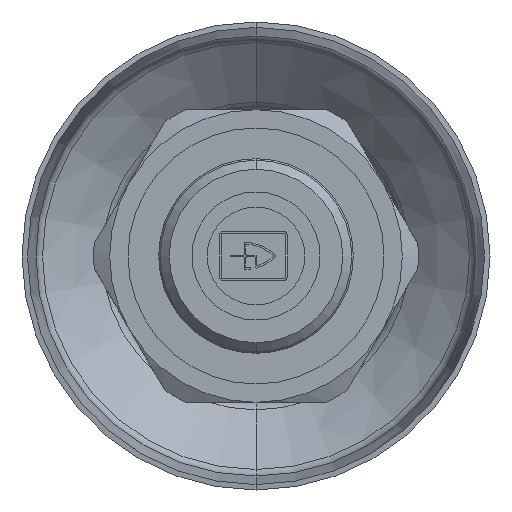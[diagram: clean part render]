
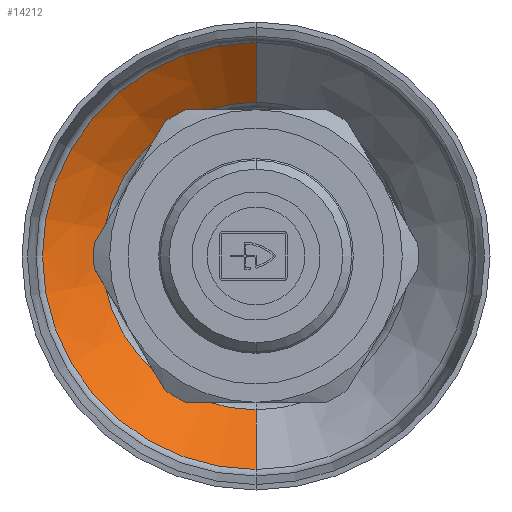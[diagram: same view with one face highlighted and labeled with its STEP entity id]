
A CAD part, front view. The second image highlights one B-rep face of the part: STEP entity #14212.
In plain terms, the highlighted conical face has half-angle 50 degrees and reference radius 23.355 mm.
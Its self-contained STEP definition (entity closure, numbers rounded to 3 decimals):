
#779 = EDGE_LOOP ( 'NONE', ( #10916, #10397, #12843, #7878 ) ) ;
#940 = AXIS2_PLACEMENT_3D ( 'NONE', #4172, #3083, #13204 ) ;
#1166 = AXIS2_PLACEMENT_3D ( 'NONE', #11605, #15421, #14024 ) ;
#1257 = EDGE_CURVE ( 'NONE', #3792, #6732, #3112, .T. ) ;
#1605 = CARTESIAN_POINT ( 'NONE',  ( 0., 6.051, 16.829 ) ) ;
#1763 = LINE ( 'NONE', #16056, #8958 ) ;
#2248 = CARTESIAN_POINT ( 'NONE',  ( 0., 0.574, -23.355 ) ) ;
#3083 = DIRECTION ( 'NONE',  ( 0., -1., 0. ) ) ;
#3112 = CIRCLE ( 'NONE', #940, 16.829 ) ;
#3134 = CARTESIAN_POINT ( 'NONE',  ( 0., 0.574, 0. ) ) ;
#3792 = VERTEX_POINT ( 'NONE', #1605 ) ;
#4172 = CARTESIAN_POINT ( 'NONE',  ( 0., 6.051, 0. ) ) ;
#4506 = EDGE_CURVE ( 'NONE', #6732, #9387, #9857, .T. ) ;
#5766 = DIRECTION ( 'NONE',  ( 0., -1., 0. ) ) ;
#6732 = VERTEX_POINT ( 'NONE', #13200 ) ;
#7047 = DIRECTION ( 'NONE',  ( 0., -0.643, 0.766 ) ) ;
#7878 = ORIENTED_EDGE ( 'NONE', *, *, #4506, .F. ) ;
#7902 = AXIS2_PLACEMENT_3D ( 'NONE', #3134, #5766, #10890 ) ;
#8099 = EDGE_CURVE ( 'NONE', #14599, #9387, #11152, .T. ) ;
#8510 = EDGE_CURVE ( 'NONE', #3792, #14599, #1763, .T. ) ;
#8711 = CARTESIAN_POINT ( 'NONE',  ( 0., 0.574, -23.355 ) ) ;
#8958 = VECTOR ( 'NONE', #7047, 1000. ) ;
#9387 = VERTEX_POINT ( 'NONE', #8711 ) ;
#9857 = LINE ( 'NONE', #2248, #16458 ) ;
#9866 = CARTESIAN_POINT ( 'NONE',  ( 0., 0.574, 23.355 ) ) ;
#10397 = ORIENTED_EDGE ( 'NONE', *, *, #8510, .T. ) ;
#10890 = DIRECTION ( 'NONE',  ( 0., 0., -1. ) ) ;
#10916 = ORIENTED_EDGE ( 'NONE', *, *, #1257, .F. ) ;
#11152 = CIRCLE ( 'NONE', #7902, 23.355 ) ;
#11506 = FACE_OUTER_BOUND ( 'NONE', #779, .T. ) ;
#11605 = CARTESIAN_POINT ( 'NONE',  ( 0., 0.574, 0. ) ) ;
#12843 = ORIENTED_EDGE ( 'NONE', *, *, #8099, .T. ) ;
#13200 = CARTESIAN_POINT ( 'NONE',  ( 0., 6.051, -16.829 ) ) ;
#13204 = DIRECTION ( 'NONE',  ( 0., 0., -1. ) ) ;
#14024 = DIRECTION ( 'NONE',  ( 0., 0., -1. ) ) ;
#14212 = ADVANCED_FACE ( 'NONE', ( #11506 ), #15844, .F. ) ;
#14599 = VERTEX_POINT ( 'NONE', #9866 ) ;
#15013 = DIRECTION ( 'NONE',  ( 0., -0.643, -0.766 ) ) ;
#15421 = DIRECTION ( 'NONE',  ( 0., -1., 0. ) ) ;
#15844 = CONICAL_SURFACE ( 'NONE', #1166, 23.355, 0.873 ) ;
#16056 = CARTESIAN_POINT ( 'NONE',  ( 0., 0.574, 23.355 ) ) ;
#16458 = VECTOR ( 'NONE', #15013, 1000. ) ;
